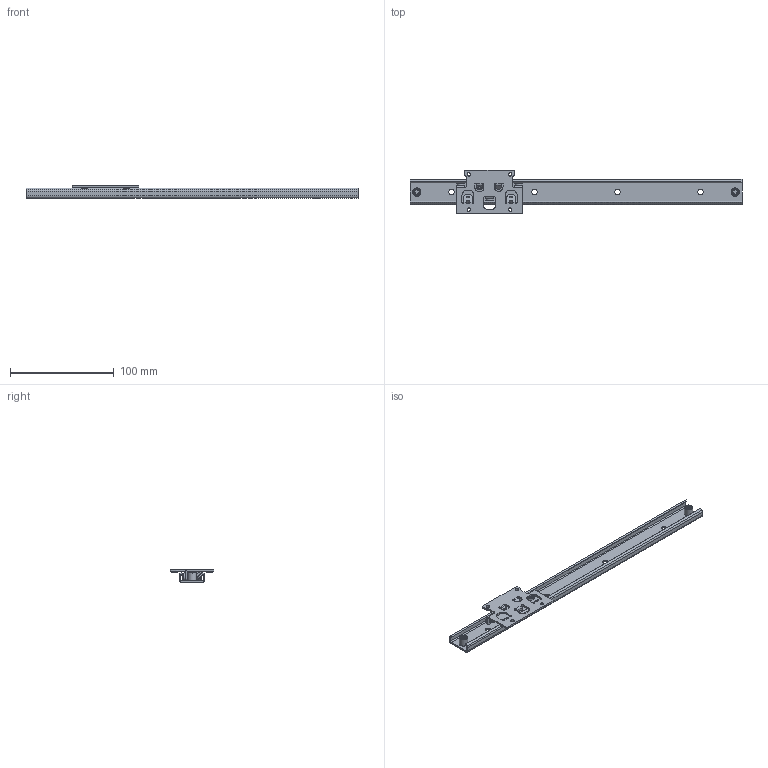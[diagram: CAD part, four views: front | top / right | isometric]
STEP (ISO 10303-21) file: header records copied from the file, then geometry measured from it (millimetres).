
FILE_DESCRIPTION((''),'1');
FILE_NAME('C:/Users/t-inoue/Desktop/25SW0320SS hp.stp','2016-07-29T02:26:16',(''),(''),'Spatial Interop R21 SP3','Kubotek KeyCreator 2011 V10.0.2 (22737)',' ');
FILE_SCHEMA(('automotive_design'));
Length unit declared in the file: millimetre
Products named in the file (422): Unnamed[1]
Bounding box: 320 x 42 x 12 mm (x, y, z)
Surface area: 34168.2 mm2 (no closed solid volume)
Topology: 0 solids, 422 shells, 422 faces, 1790 edges, 1633 vertices
Faces by surface type: plane 182, cylinder 126, cone 105, torus 8, sphere 1
Full cylindrical faces by diameter (mm): 1.6 x1, 3.2 x6, 3.3 x4, 3.5 x1, 4 x10, 5 x6, 5.5 x4, 5.6 x2, 7 x6, 8.2 x2
Entity records: 35954 total; most frequent: CARTESIAN_POINT 4320, DIRECTION 4097, PRESENTATION_STYLE_ASSIGNMENT 1688, COLOUR_RGB 1688, AXIS2_PLACEMENT_3D 1655, ORIENTED_EDGE 1606, EDGE_CURVE 1606, VERTEX_POINT 1606
